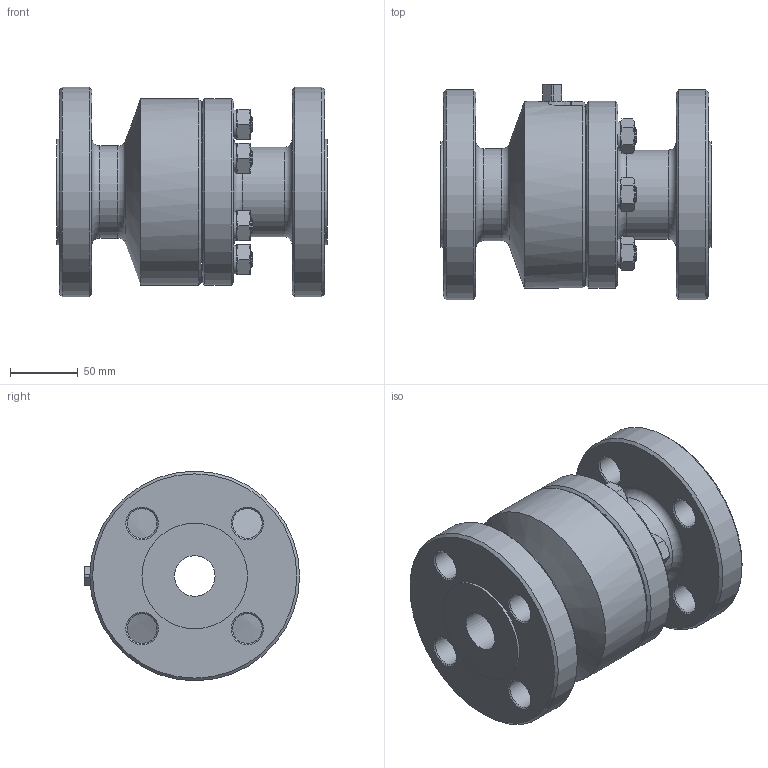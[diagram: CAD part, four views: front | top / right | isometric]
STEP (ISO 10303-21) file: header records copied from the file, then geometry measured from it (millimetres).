
FILE_DESCRIPTION((''),'2;1');
FILE_NAME('C:\Users\Bartek\Desktop\Nowy folder (2)\Nowy folder (22)\WK5b DN32 PN100_Substitute_1.stp','2024-09-16T15:03:30',('Bartek'),(''),'Autodesk Inventor 2012','Autodesk Inventor 2012','');
FILE_SCHEMA(('AUTOMOTIVE_DESIGN { 1 0 10303 214 1 1 1 1 }'));
Length unit declared in the file: millimetre
Products named in the file (1): WK5b DN32 PN100_Substitute_1
Bounding box: 200 x 159 x 155 mm (x, y, z)
Volume: 2106617.5 mm3; surface area: 206912.5 mm2
Topology: 1 solids, 1 shells, 229 faces, 510 edges, 309 vertices
Faces by surface type: cone 102, plane 81, cylinder 42, torus 4
Full cylindrical faces by diameter (mm): 12 x6, 21 x6, 22 x8, 30 x1, 66 x1, 68 x1, 75 x1, 78 x2, 138 x1, 155 x2
Entity records: 6005 total; most frequent: CARTESIAN_POINT 1293, DIRECTION 926, ORIENTED_EDGE 866, EDGE_CURVE 433, AXIS2_PLACEMENT_3D 417, EDGE_LOOP 335, VERTEX_POINT 294, STYLED_ITEM 230
